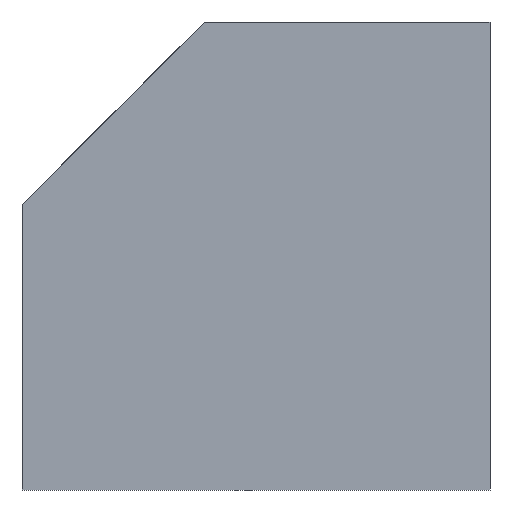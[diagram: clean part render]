
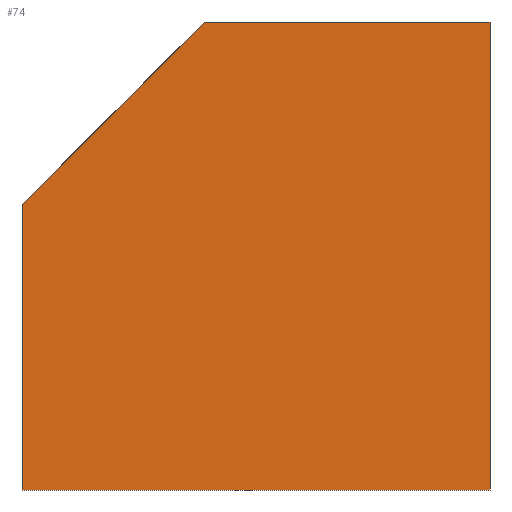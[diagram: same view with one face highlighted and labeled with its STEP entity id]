
A CAD part, front view. The second image highlights one B-rep face of the part: STEP entity #74.
In plain terms, the highlighted planar face has unit normal (0, -1, 0).
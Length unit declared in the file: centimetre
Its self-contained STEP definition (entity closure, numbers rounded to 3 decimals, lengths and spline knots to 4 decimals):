
#11 = VERTEX_POINT ( 'NONE', #63 ) ;
#28 = EDGE_CURVE ( 'NONE', #11, #594, #657, .T. ) ;
#61 = EDGE_LOOP ( 'NONE', ( #113, #314, #643, #106, #556 ) ) ;
#63 = CARTESIAN_POINT ( 'NONE',  ( 389.7465, 0., 1000. ) ) ;
#74 = ADVANCED_FACE ( 'NONE', ( #275 ), #515, .F. ) ;
#106 = ORIENTED_EDGE ( 'NONE', *, *, #365, .T. ) ;
#113 = ORIENTED_EDGE ( 'NONE', *, *, #633, .F. ) ;
#117 = VERTEX_POINT ( 'NONE', #625 ) ;
#131 = LINE ( 'NONE', #313, #666 ) ;
#139 = CARTESIAN_POINT ( 'NONE',  ( 1000., 0., 0. ) ) ;
#166 = VECTOR ( 'NONE', #354, 100. ) ;
#176 = CARTESIAN_POINT ( 'NONE',  ( 0., 0., 0. ) ) ;
#204 = DIRECTION ( 'NONE',  ( 0., 0., -1. ) ) ;
#224 = AXIS2_PLACEMENT_3D ( 'NONE', #324, #513, #560 ) ;
#230 = DIRECTION ( 'NONE',  ( 1., 0., 0. ) ) ;
#275 = FACE_OUTER_BOUND ( 'NONE', #61, .T. ) ;
#309 = CARTESIAN_POINT ( 'NONE',  ( 389.7465, 0., 1000. ) ) ;
#313 = CARTESIAN_POINT ( 'NONE',  ( 0., 0., 0. ) ) ;
#314 = ORIENTED_EDGE ( 'NONE', *, *, #28, .T. ) ;
#324 = CARTESIAN_POINT ( 'NONE',  ( 0., 0., 1000. ) ) ;
#348 = VECTOR ( 'NONE', #230, 100. ) ;
#354 = DIRECTION ( 'NONE',  ( 0., 0., -1. ) ) ;
#365 = EDGE_CURVE ( 'NONE', #696, #526, #131, .T. ) ;
#375 = LINE ( 'NONE', #446, #759 ) ;
#384 = LINE ( 'NONE', #617, #166 ) ;
#406 = EDGE_CURVE ( 'NONE', #594, #696, #375, .T. ) ;
#446 = CARTESIAN_POINT ( 'NONE',  ( 0., 0., 1000. ) ) ;
#501 = VECTOR ( 'NONE', #545, 100. ) ;
#506 = CARTESIAN_POINT ( 'NONE',  ( 0., 0., 1000. ) ) ;
#513 = DIRECTION ( 'NONE',  ( 0., 1., 0. ) ) ;
#515 = PLANE ( 'NONE',  #224 ) ;
#520 = LINE ( 'NONE', #506, #348 ) ;
#526 = VERTEX_POINT ( 'NONE', #139 ) ;
#536 = EDGE_CURVE ( 'NONE', #117, #526, #384, .T. ) ;
#545 = DIRECTION ( 'NONE',  ( -0.707, 0., -0.707 ) ) ;
#556 = ORIENTED_EDGE ( 'NONE', *, *, #536, .F. ) ;
#560 = DIRECTION ( 'NONE',  ( 0., 0., 1. ) ) ;
#594 = VERTEX_POINT ( 'NONE', #623 ) ;
#617 = CARTESIAN_POINT ( 'NONE',  ( 1000., 0., 1000. ) ) ;
#623 = CARTESIAN_POINT ( 'NONE',  ( 0., 0., 610.2535 ) ) ;
#625 = CARTESIAN_POINT ( 'NONE',  ( 1000., 0., 1000. ) ) ;
#633 = EDGE_CURVE ( 'NONE', #11, #117, #520, .T. ) ;
#643 = ORIENTED_EDGE ( 'NONE', *, *, #406, .T. ) ;
#657 = LINE ( 'NONE', #309, #501 ) ;
#666 = VECTOR ( 'NONE', #719, 100. ) ;
#696 = VERTEX_POINT ( 'NONE', #176 ) ;
#719 = DIRECTION ( 'NONE',  ( 1., 0., 0. ) ) ;
#759 = VECTOR ( 'NONE', #204, 100. ) ;
